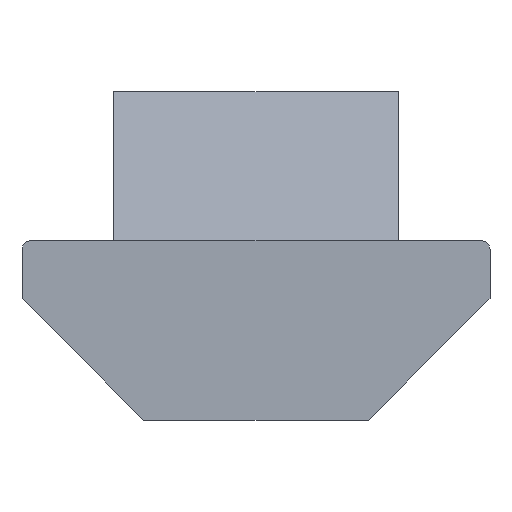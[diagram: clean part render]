
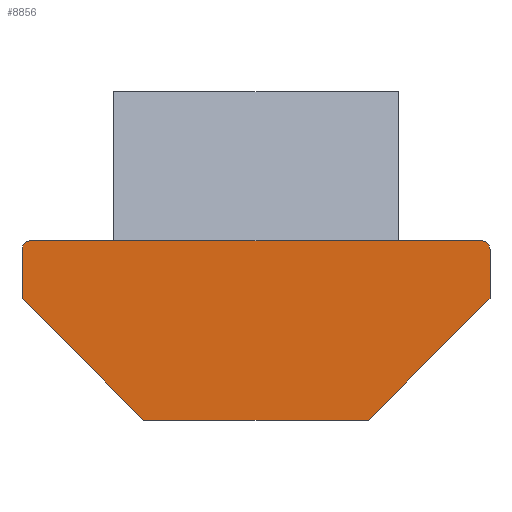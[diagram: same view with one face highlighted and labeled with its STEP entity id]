
A CAD part, front view. The second image highlights one B-rep face of the part: STEP entity #8856.
In plain terms, the highlighted planar face has unit normal (0, -1, 0).
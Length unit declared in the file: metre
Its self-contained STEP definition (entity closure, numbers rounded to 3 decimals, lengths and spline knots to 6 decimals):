
#14=CIRCLE('',#9390,0.0002);
#15=CIRCLE('',#9391,0.0002);
#450=ORIENTED_EDGE('',*,*,#2939,.T.);
#451=ORIENTED_EDGE('',*,*,#2946,.T.);
#452=ORIENTED_EDGE('',*,*,#2918,.T.);
#453=ORIENTED_EDGE('',*,*,#2947,.T.);
#454=ORIENTED_EDGE('',*,*,#2926,.T.);
#455=ORIENTED_EDGE('',*,*,#2948,.T.);
#456=ORIENTED_EDGE('',*,*,#2940,.F.);
#457=ORIENTED_EDGE('',*,*,#2945,.F.);
#458=ORIENTED_EDGE('',*,*,#2932,.F.);
#459=ORIENTED_EDGE('',*,*,#2936,.T.);
#2918=EDGE_CURVE('',#4168,#4169,#5000,.T.);
#2926=EDGE_CURVE('',#4177,#4176,#5008,.T.);
#2932=EDGE_CURVE('',#4182,#4183,#5014,.T.);
#2936=EDGE_CURVE('',#4182,#4185,#5018,.T.);
#2939=EDGE_CURVE('',#4185,#4187,#5021,.T.);
#2940=EDGE_CURVE('',#4188,#4189,#5022,.T.);
#2945=EDGE_CURVE('',#4183,#4188,#5027,.T.);
#2946=EDGE_CURVE('',#4187,#4168,#14,.T.);
#2947=EDGE_CURVE('',#4169,#4177,#5028,.T.);
#2948=EDGE_CURVE('',#4176,#4189,#15,.T.);
#4168=VERTEX_POINT('',#13006);
#4169=VERTEX_POINT('',#13007);
#4176=VERTEX_POINT('',#13021);
#4177=VERTEX_POINT('',#13023);
#4182=VERTEX_POINT('',#13034);
#4183=VERTEX_POINT('',#13036);
#4185=VERTEX_POINT('',#13042);
#4187=VERTEX_POINT('',#13048);
#4188=VERTEX_POINT('',#13052);
#4189=VERTEX_POINT('',#13053);
#5000=LINE('',#13005,#6246);
#5008=LINE('',#13022,#6254);
#5014=LINE('',#13035,#6260);
#5018=LINE('',#13043,#6264);
#5021=LINE('',#13049,#6267);
#5022=LINE('',#13051,#6268);
#5027=LINE('',#13061,#6273);
#5028=LINE('',#13064,#6274);
#6246=VECTOR('',#10311,1.);
#6254=VECTOR('',#10319,1.);
#6260=VECTOR('',#10327,1.);
#6264=VECTOR('',#10333,1.);
#6267=VECTOR('',#10338,1.);
#6268=VECTOR('',#10341,1.);
#6273=VECTOR('',#10348,1.);
#6274=VECTOR('',#10353,1.);
#7198=EDGE_LOOP('',(#450,#451,#452,#453,#454,#455,#456,#457,#458,#459));
#7818=FACE_BOUND('',#7198,.T.);
#8338=PLANE('',#9389);
#8856=ADVANCED_FACE('',(#7818),#8338,.T.);
#9389=AXIS2_PLACEMENT_3D('',#13062,#10349,#10350);
#9390=AXIS2_PLACEMENT_3D('',#13063,#10351,#10352);
#9391=AXIS2_PLACEMENT_3D('',#13065,#10354,#10355);
#10311=DIRECTION('',(-1.,0.,0.));
#10319=DIRECTION('',(-1.,0.,0.));
#10327=DIRECTION('',(-1.,0.,0.));
#10333=DIRECTION('',(0.707,0.,0.707));
#10338=DIRECTION('',(0.,0.,1.));
#10341=DIRECTION('',(0.,0.,1.));
#10348=DIRECTION('',(-0.707,0.,0.707));
#10349=DIRECTION('',(0.,-1.,0.));
#10350=DIRECTION('',(1.,0.,0.));
#10351=DIRECTION('',(0.,-1.,0.));
#10352=DIRECTION('',(0.,0.,-1.));
#10353=DIRECTION('',(-1.,0.,0.));
#10354=DIRECTION('',(0.,-1.,0.));
#10355=DIRECTION('',(0.,0.,-1.));
#13005=CARTESIAN_POINT('',(0.,-0.305,0.00422));
#13006=CARTESIAN_POINT('',(0.0053,-0.305,0.00422));
#13007=CARTESIAN_POINT('',(0.00334,-0.305,0.00422));
#13021=CARTESIAN_POINT('',(-0.0053,-0.305,0.00422));
#13022=CARTESIAN_POINT('',(0.,-0.305,0.00422));
#13023=CARTESIAN_POINT('',(-0.00334,-0.305,0.00422));
#13034=CARTESIAN_POINT('',(0.00264,-0.305,0.));
#13035=CARTESIAN_POINT('',(0.,-0.305,0.));
#13036=CARTESIAN_POINT('',(-0.00264,-0.305,0.));
#13042=CARTESIAN_POINT('',(0.0055,-0.305,0.00286));
#13043=CARTESIAN_POINT('',(0.00407,-0.305,0.00143));
#13048=CARTESIAN_POINT('',(0.0055,-0.305,0.00402));
#13049=CARTESIAN_POINT('',(0.0055,-0.305,0.00354));
#13051=CARTESIAN_POINT('',(-0.0055,-0.305,0.00354));
#13052=CARTESIAN_POINT('',(-0.0055,-0.305,0.00286));
#13053=CARTESIAN_POINT('',(-0.0055,-0.305,0.00402));
#13061=CARTESIAN_POINT('',(-0.00407,-0.305,0.00143));
#13062=CARTESIAN_POINT('',(0.,-0.305,0.00211));
#13063=CARTESIAN_POINT('',(0.0053,-0.305,0.00402));
#13064=CARTESIAN_POINT('',(0.00334,-0.305,0.00422));
#13065=CARTESIAN_POINT('',(-0.0053,-0.305,0.00402));
